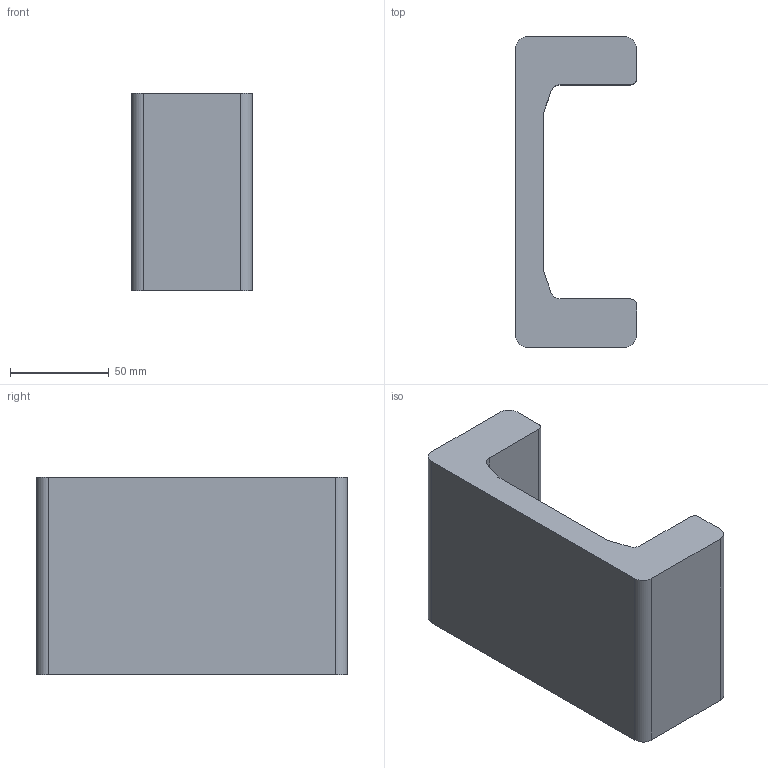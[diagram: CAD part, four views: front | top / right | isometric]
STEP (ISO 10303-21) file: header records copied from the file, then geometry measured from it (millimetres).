
FILE_DESCRIPTION (( 'STEP AP214' ), '1' );
FILE_NAME ('3D5.2862.STEP', '2013-12-17T07:04:00', ( 'usuario' ), ( 'Hewlett-Packard Company' ), 'SwSTEP 2.0', 'SolidWorks 2017', '' );
FILE_SCHEMA (( 'AUTOMOTIVE_DESIGN' ));
Length unit declared in the file: millimetre
Products named in the file (1): 3D5.2862
Bounding box: 61.2 x 157.2 x 100 mm (x, y, z)
Volume: 454920.6 mm3; surface area: 59900.6 mm2
Topology: 1 solids, 1 shells, 20 faces, 54 edges, 36 vertices
Faces by surface type: plane 12, cylinder 8
Entity records: 668 total; most frequent: DIRECTION 112, CARTESIAN_POINT 111, ORIENTED_EDGE 108, EDGE_CURVE 54, LINE 38, VECTOR 38, AXIS2_PLACEMENT_3D 37, VERTEX_POINT 36
